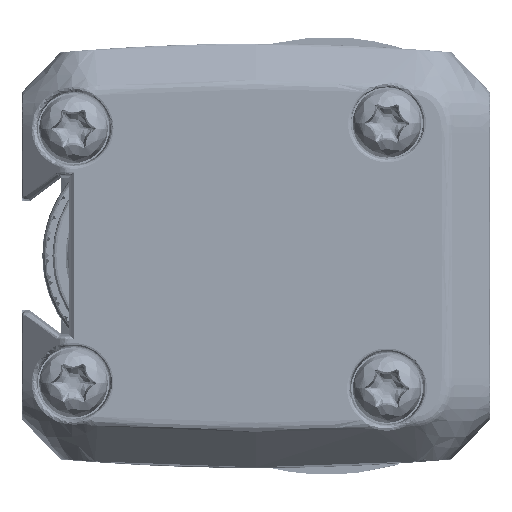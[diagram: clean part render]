
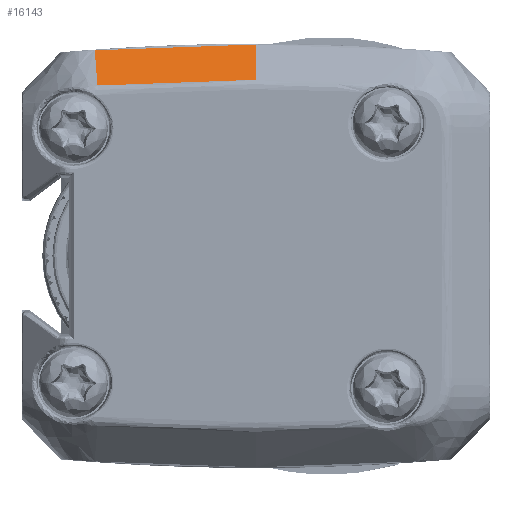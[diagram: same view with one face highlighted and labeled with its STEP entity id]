
A CAD part, left-side view. The second image highlights one B-rep face of the part: STEP entity #16143.
In plain terms, the highlighted free-form (B-spline) face has degree [3, 3] with [6, 4] control points.
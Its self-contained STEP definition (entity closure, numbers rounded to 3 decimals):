
#5458=CARTESIAN_POINT('',(11.288,-0.495,
254.67));
#5484=CARTESIAN_POINT('',(11.288,-0.495,
254.67));
#5485=CARTESIAN_POINT('',(11.288,2.893,254.67));
#5486=CARTESIAN_POINT('',(11.166,6.282,254.67));
#5487=CARTESIAN_POINT('',(10.92,9.66,254.67));
#5904=DIRECTION('',(0.695,0.057,-0.717));
#5905=VECTOR('',#5904,3.246);
#5906=CARTESIAN_POINT('',(10.92,9.66,254.67));
#5907=LINE('',#5906,#5905);
#7023=DIRECTION('',(-0.697,0.,0.717));
#7024=VECTOR('',#7023,3.247);
#7025=CARTESIAN_POINT('',(13.55,-0.495,
252.341));
#7026=LINE('',#7025,#7024);
#7047=CARTESIAN_POINT('',(13.175,9.846,252.342));
#7048=CARTESIAN_POINT('',(13.425,6.406,252.342));
#7049=CARTESIAN_POINT('',(13.55,2.955,252.341));
#7050=CARTESIAN_POINT('',(13.55,-0.495,
252.341));
#7056=CARTESIAN_POINT('',(13.175,9.846,252.342));
#7064=CARTESIAN_POINT('',(13.55,-0.495,
252.341));
#8126=VERTEX_POINT('',#5458);
#8128=VERTEX_POINT('',#5487);
#8133=VERTEX_POINT('',#7064);
#8135=VERTEX_POINT('',#7056);
#16111=CARTESIAN_POINT('',(13.595,-0.703,
252.294));
#16112=CARTESIAN_POINT('',(12.811,-0.701,
253.101));
#16113=CARTESIAN_POINT('',(12.026,-0.7,
253.908));
#16114=CARTESIAN_POINT('',(11.242,-0.699,
254.716));
#16115=CARTESIAN_POINT('',(13.595,-0.634,
252.294));
#16116=CARTESIAN_POINT('',(12.811,-0.633,
253.101));
#16117=CARTESIAN_POINT('',(12.027,-0.632,
253.908));
#16118=CARTESIAN_POINT('',(11.242,-0.631,
254.716));
#16119=CARTESIAN_POINT('',(13.598,2.887,252.294));
#16120=CARTESIAN_POINT('',(12.813,2.866,253.101));
#16121=CARTESIAN_POINT('',(12.029,2.845,253.908));
#16122=CARTESIAN_POINT('',(11.245,2.824,254.716));
#16123=CARTESIAN_POINT('',(13.468,6.477,252.294));
#16124=CARTESIAN_POINT('',(12.684,6.433,253.101));
#16125=CARTESIAN_POINT('',(11.901,6.39,253.908));
#16126=CARTESIAN_POINT('',(11.117,6.347,254.716));
#16127=CARTESIAN_POINT('',(13.211,9.988,252.294));
#16128=CARTESIAN_POINT('',(12.429,9.923,253.101));
#16129=CARTESIAN_POINT('',(11.647,9.858,253.908));
#16130=CARTESIAN_POINT('',(10.865,9.793,254.716));
#16131=CARTESIAN_POINT('',(13.206,10.057,252.294));
#16132=CARTESIAN_POINT('',(12.424,9.991,253.101));
#16133=CARTESIAN_POINT('',(11.642,9.926,253.908));
#16134=CARTESIAN_POINT('',(10.86,9.86,254.716));
#16135=B_SPLINE_SURFACE_WITH_KNOTS('',3,3,((#16111,#16112,#16113,#16114),
(#16115,#16116,#16117,#16118),(#16119,#16120,#16121,#16122),(#16123,#16124,
#16125,#16126),(#16127,#16128,#16129,#16130),(#16131,#16132,#16133,#16134)),
.UNSPECIFIED.,.F.,.F.,.F.,(4,1,1,4),(4,4),(-0.02,0.,1.,1.02),
(0.001,0.92),.UNSPECIFIED.);
#16136=ORIENTED_EDGE('',*,*,#10257,.T.);
#16137=ORIENTED_EDGE('',*,*,#11644,.T.);
#16139=ORIENTED_EDGE('',*,*,#16138,.T.);
#16140=ORIENTED_EDGE('',*,*,#16049,.T.);
#16141=EDGE_LOOP('',(#16136,#16137,#16139,#16140));
#16142=FACE_OUTER_BOUND('',#16141,.F.);
#16143=ADVANCED_FACE('',(#16142),#16135,.T.);
#5488=B_SPLINE_CURVE_WITH_KNOTS('',3,(#5484,#5485,#5486,#5487),.UNSPECIFIED.,
.F.,.F.,(4,4),(0.,1.),.UNSPECIFIED.);
#7051=B_SPLINE_CURVE_WITH_KNOTS('',3,(#7047,#7048,#7049,#7050),.UNSPECIFIED.,
.F.,.F.,(4,4),(0.,1.),.UNSPECIFIED.);
#10257=EDGE_CURVE('',#8126,#8128,#5488,.T.);
#11644=EDGE_CURVE('',#8128,#8135,#5907,.T.);
#16049=EDGE_CURVE('',#8133,#8126,#7026,.T.);
#16138=EDGE_CURVE('',#8135,#8133,#7051,.T.);
